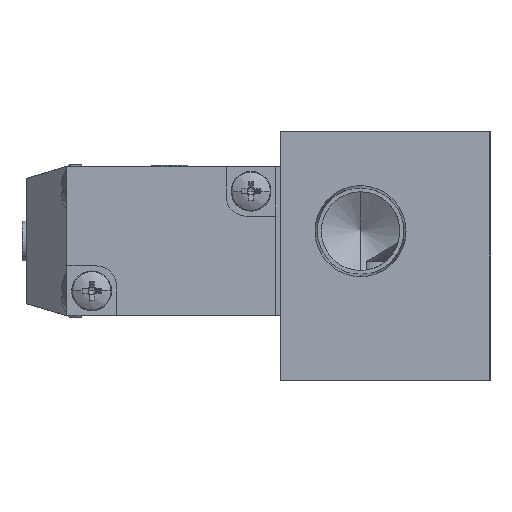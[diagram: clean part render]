
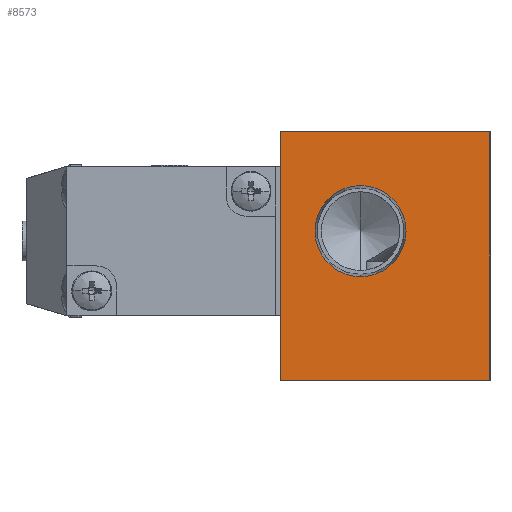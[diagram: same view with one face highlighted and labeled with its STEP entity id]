
A CAD part, left-side view. The second image highlights one B-rep face of the part: STEP entity #8573.
In plain terms, the highlighted planar face has unit normal (-1, 0, 0).
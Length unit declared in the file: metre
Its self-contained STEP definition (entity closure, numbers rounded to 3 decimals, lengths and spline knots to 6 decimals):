
#472 = CIRCLE ( 'NONE', #4461, 0.004574 ) ;
#552 = DIRECTION ( 'NONE',  ( 1., 0., 0. ) ) ;
#954 = CARTESIAN_POINT ( 'NONE',  ( -0.019, -0.0105, -0.014 ) ) ;
#1185 = EDGE_LOOP ( 'NONE', ( #7546, #3031, #7941, #6365 ) ) ;
#1229 = VERTEX_POINT ( 'NONE', #954 ) ;
#2143 = VECTOR ( 'NONE', #6126, 1. ) ;
#2181 = CARTESIAN_POINT ( 'NONE',  ( -0.019, 0.0025, -0.003574 ) ) ;
#3031 = ORIENTED_EDGE ( 'NONE', *, *, #10833, .F. ) ;
#3552 = AXIS2_PLACEMENT_3D ( 'NONE', #8912, #10918, #4915 ) ;
#4461 = AXIS2_PLACEMENT_3D ( 'NONE', #7527, #552, #6526 ) ;
#4640 = EDGE_CURVE ( 'NONE', #8879, #6058, #9866, .T. ) ;
#4701 = FACE_BOUND ( 'NONE', #10404, .T. ) ;
#4724 = EDGE_CURVE ( 'NONE', #9207, #1229, #6584, .T. ) ;
#4812 = DIRECTION ( 'NONE',  ( 1., 0., 0. ) ) ;
#4915 = DIRECTION ( 'NONE',  ( 0., 0., 1. ) ) ;
#4984 = CIRCLE ( 'NONE', #6227, 0.004574 ) ;
#5242 = VERTEX_POINT ( 'NONE', #9041 ) ;
#5294 = DIRECTION ( 'NONE',  ( 0., 1., 0. ) ) ;
#5413 = CARTESIAN_POINT ( 'NONE',  ( -0.019, 0.0105, -0.014 ) ) ;
#5451 = ORIENTED_EDGE ( 'NONE', *, *, #9537, .T. ) ;
#6058 = VERTEX_POINT ( 'NONE', #10717 ) ;
#6126 = DIRECTION ( 'NONE',  ( 0., 1., 0. ) ) ;
#6179 = EDGE_CURVE ( 'NONE', #7106, #5242, #472, .T. ) ;
#6227 = AXIS2_PLACEMENT_3D ( 'NONE', #10808, #4812, #11808 ) ;
#6365 = ORIENTED_EDGE ( 'NONE', *, *, #10934, .T. ) ;
#6526 = DIRECTION ( 'NONE',  ( 0., 0., 1. ) ) ;
#6584 = LINE ( 'NONE', #12587, #11592 ) ;
#6604 = ORIENTED_EDGE ( 'NONE', *, *, #6179, .T. ) ;
#7039 = FACE_OUTER_BOUND ( 'NONE', #1185, .T. ) ;
#7106 = VERTEX_POINT ( 'NONE', #2181 ) ;
#7290 = CARTESIAN_POINT ( 'NONE',  ( -0.019, 0., 0.011 ) ) ;
#7527 = CARTESIAN_POINT ( 'NONE',  ( -0.019, 0.0025, 0.001 ) ) ;
#7546 = ORIENTED_EDGE ( 'NONE', *, *, #4640, .F. ) ;
#7941 = ORIENTED_EDGE ( 'NONE', *, *, #4724, .F. ) ;
#8573 = ADVANCED_FACE ( 'NONE', ( #4701, #7039 ), #10829, .T. ) ;
#8879 = VERTEX_POINT ( 'NONE', #5413 ) ;
#8912 = CARTESIAN_POINT ( 'NONE',  ( -0.019, -0.0105, -0.014 ) ) ;
#8945 = CARTESIAN_POINT ( 'NONE',  ( -0.019, -0.0105, 0.011 ) ) ;
#9041 = CARTESIAN_POINT ( 'NONE',  ( -0.019, 0.0025, 0.005574 ) ) ;
#9207 = VERTEX_POINT ( 'NONE', #8945 ) ;
#9511 = LINE ( 'NONE', #7290, #11541 ) ;
#9537 = EDGE_CURVE ( 'NONE', #5242, #7106, #4984, .T. ) ;
#9817 = LINE ( 'NONE', #12095, #2143 ) ;
#9866 = LINE ( 'NONE', #11391, #12202 ) ;
#10404 = EDGE_LOOP ( 'NONE', ( #5451, #6604 ) ) ;
#10717 = CARTESIAN_POINT ( 'NONE',  ( -0.019, 0.0105, 0.011 ) ) ;
#10808 = CARTESIAN_POINT ( 'NONE',  ( -0.019, 0.0025, 0.001 ) ) ;
#10829 = PLANE ( 'NONE',  #3552 ) ;
#10833 = EDGE_CURVE ( 'NONE', #1229, #8879, #9817, .T. ) ;
#10918 = DIRECTION ( 'NONE',  ( -1., 0., 0. ) ) ;
#10934 = EDGE_CURVE ( 'NONE', #9207, #6058, #9511, .T. ) ;
#11391 = CARTESIAN_POINT ( 'NONE',  ( -0.019, 0.0105, -0.0015 ) ) ;
#11423 = DIRECTION ( 'NONE',  ( 0., 0., 1. ) ) ;
#11541 = VECTOR ( 'NONE', #5294, 1. ) ;
#11592 = VECTOR ( 'NONE', #12537, 1. ) ;
#11808 = DIRECTION ( 'NONE',  ( 0., 0., 1. ) ) ;
#12095 = CARTESIAN_POINT ( 'NONE',  ( -0.019, 0., -0.014 ) ) ;
#12202 = VECTOR ( 'NONE', #11423, 1. ) ;
#12537 = DIRECTION ( 'NONE',  ( 0., 0., -1. ) ) ;
#12587 = CARTESIAN_POINT ( 'NONE',  ( -0.019, -0.0105, -0.0015 ) ) ;
